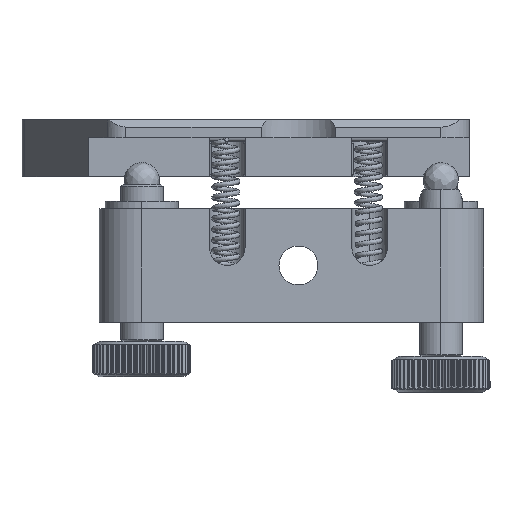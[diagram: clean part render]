
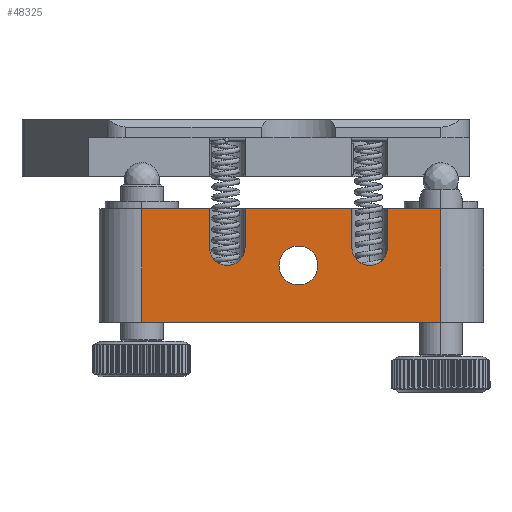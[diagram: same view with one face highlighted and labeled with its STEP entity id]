
A CAD part, left-side view. The second image highlights one B-rep face of the part: STEP entity #48325.
In plain terms, the highlighted planar face has unit normal (-1, 0, 0).
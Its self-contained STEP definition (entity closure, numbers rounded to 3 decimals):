
#283 = DIRECTION ( 'NONE',  ( 0., -1., 0. ) ) ;
#284 = VECTOR ( 'NONE', #283, 1000. ) ;
#285 = CARTESIAN_POINT ( 'NONE',  ( 0., 14.331, 16. ) ) ;
#286 = LINE ( 'NONE', #285, #284 ) ;
#393 = CARTESIAN_POINT ( 'NONE',  ( 0., 43.498, 16. ) ) ;
#3779 = CARTESIAN_POINT ( 'NONE',  ( 0., 28.998, 16. ) ) ;
#3820 = CARTESIAN_POINT ( 'NONE',  ( 0., 33.998, 16. ) ) ;
#3841 = CARTESIAN_POINT ( 'NONE',  ( 0., 8.998, 16. ) ) ;
#3842 = CARTESIAN_POINT ( 'NONE',  ( 0., 13.998, 16. ) ) ;
#3843 = CARTESIAN_POINT ( 'NONE',  ( 0., 1.498, 16. ) ) ;
#3872 = DIRECTION ( 'NONE',  ( 0., -1., 0. ) ) ;
#3873 = VECTOR ( 'NONE', #3872, 1000. ) ;
#3874 = CARTESIAN_POINT ( 'NONE',  ( 0., 14.331, 16. ) ) ;
#3875 = LINE ( 'NONE', #3874, #3873 ) ;
#3889 = DIRECTION ( 'NONE',  ( 0., -1., 0. ) ) ;
#3890 = VECTOR ( 'NONE', #3889, 1000. ) ;
#3891 = CARTESIAN_POINT ( 'NONE',  ( 0., 14.331, 16. ) ) ;
#3892 = LINE ( 'NONE', #3891, #3890 ) ;
#25013 = CARTESIAN_POINT ( 'NONE',  ( 0., 28.998, 10.5 ) ) ;
#25018 = DIRECTION ( 'NONE',  ( 0., 0., -1. ) ) ;
#25019 = DIRECTION ( 'NONE',  ( 1., 0., 0. ) ) ;
#25020 = CARTESIAN_POINT ( 'NONE',  ( 0., 31.498, 10.5 ) ) ;
#25021 = AXIS2_PLACEMENT_3D ( 'NONE', #25020, #25019, #25018 ) ;
#25022 = CIRCLE ( 'NONE', #25021, 2.5 ) ;
#25023 = DIRECTION ( 'NONE',  ( 0., 0., -1. ) ) ;
#25024 = VECTOR ( 'NONE', #25023, 1000. ) ;
#25025 = CARTESIAN_POINT ( 'NONE',  ( 0., 28.998, 0. ) ) ;
#25026 = LINE ( 'NONE', #25025, #25024 ) ;
#25074 = DIRECTION ( 'NONE',  ( 0., 0., 1. ) ) ;
#25075 = VECTOR ( 'NONE', #25074, 1000. ) ;
#25076 = CARTESIAN_POINT ( 'NONE',  ( 0., 33.998, 16. ) ) ;
#25090 = LINE ( 'NONE', #25076, #25075 ) ;
#25114 = CARTESIAN_POINT ( 'NONE',  ( 0., 8.998, 10.5 ) ) ;
#25121 = DIRECTION ( 'NONE',  ( 0., 0., -1. ) ) ;
#25122 = VECTOR ( 'NONE', #25121, 1000. ) ;
#25123 = CARTESIAN_POINT ( 'NONE',  ( 0., 43.498, 0. ) ) ;
#25124 = LINE ( 'NONE', #25123, #25122 ) ;
#25125 = DIRECTION ( 'NONE',  ( 0., 0., 1. ) ) ;
#25126 = VECTOR ( 'NONE', #25125, 1000. ) ;
#25127 = CARTESIAN_POINT ( 'NONE',  ( 0., 13.998, 0. ) ) ;
#25128 = LINE ( 'NONE', #25127, #25126 ) ;
#25133 = DIRECTION ( 'NONE',  ( 0., -1., 0. ) ) ;
#25134 = VECTOR ( 'NONE', #25133, 1000. ) ;
#25135 = CARTESIAN_POINT ( 'NONE',  ( 0., -4.502, 0. ) ) ;
#25136 = LINE ( 'NONE', #25135, #25134 ) ;
#25158 = DIRECTION ( 'NONE',  ( 0., 0., 1. ) ) ;
#25159 = DIRECTION ( 'NONE',  ( -1., 0., 0. ) ) ;
#25160 = CARTESIAN_POINT ( 'NONE',  ( 0., -4.502, 0. ) ) ;
#25161 = AXIS2_PLACEMENT_3D ( 'NONE', #25160, #25159, #25158 ) ;
#25162 = PLANE ( 'NONE',  #25161 ) ;
#25163 = FACE_OUTER_BOUND ( 'NONE', #48308, .T. ) ;
#25164 = FACE_BOUND ( 'NONE', #48316, .T. ) ;
#25165 = DIRECTION ( 'NONE',  ( 0., 0., 1. ) ) ;
#25166 = DIRECTION ( 'NONE',  ( 1., 0., 0. ) ) ;
#25167 = CARTESIAN_POINT ( 'NONE',  ( 0., 21.498, 8. ) ) ;
#25168 = AXIS2_PLACEMENT_3D ( 'NONE', #25167, #25166, #25165 ) ;
#25169 = CIRCLE ( 'NONE', #25168, 2.729 ) ;
#25171 = LINE ( 'NONE', #25241, #25240 ) ;
#25172 = DIRECTION ( 'NONE',  ( 0., 0., -1. ) ) ;
#25173 = VECTOR ( 'NONE', #25172, 1000. ) ;
#25174 = CARTESIAN_POINT ( 'NONE',  ( 0., 8.998, 0. ) ) ;
#25175 = LINE ( 'NONE', #25174, #25173 ) ;
#25176 = DIRECTION ( 'NONE',  ( 0., 0., -1. ) ) ;
#25177 = DIRECTION ( 'NONE',  ( 1., 0., 0. ) ) ;
#25178 = AXIS2_PLACEMENT_3D ( 'NONE', #25195, #25177, #25176 ) ;
#25193 = CIRCLE ( 'NONE', #25178, 2.5 ) ;
#25195 = CARTESIAN_POINT ( 'NONE',  ( 0., 11.498, 10.5 ) ) ;
#25196 = CARTESIAN_POINT ( 'NONE',  ( 0., 1.498, 0. ) ) ;
#25238 = CARTESIAN_POINT ( 'NONE',  ( 0., 43.498, 0. ) ) ;
#25239 = DIRECTION ( 'NONE',  ( 0., 0., 1. ) ) ;
#25240 = VECTOR ( 'NONE', #25239, 1000. ) ;
#25241 = CARTESIAN_POINT ( 'NONE',  ( 0., 1.498, 0. ) ) ;
#27392 = DIRECTION ( 'NONE',  ( 0., 0., -1. ) ) ;
#27393 = DIRECTION ( 'NONE',  ( 1., 0., 0. ) ) ;
#27394 = AXIS2_PLACEMENT_3D ( 'NONE', #27399, #27393, #27392 ) ;
#27399 = CARTESIAN_POINT ( 'NONE',  ( 0., 31.498, 10.5 ) ) ;
#27401 = CIRCLE ( 'NONE', #27394, 2.5 ) ;
#27597 = CARTESIAN_POINT ( 'NONE',  ( 0., 21.498, 10.729 ) ) ;
#27632 = CARTESIAN_POINT ( 'NONE',  ( 0., 21.498, 5.27 ) ) ;
#29697 = CARTESIAN_POINT ( 'NONE',  ( 0., 33.998, 10.5 ) ) ;
#29731 = DIRECTION ( 'NONE',  ( 0., 0., 1. ) ) ;
#29732 = DIRECTION ( 'NONE',  ( 1., 0., 0. ) ) ;
#29733 = CARTESIAN_POINT ( 'NONE',  ( 0., 21.498, 8. ) ) ;
#29734 = AXIS2_PLACEMENT_3D ( 'NONE', #29733, #29732, #29731 ) ;
#29735 = CIRCLE ( 'NONE', #29734, 2.729 ) ;
#29740 = CARTESIAN_POINT ( 'NONE',  ( 0., 31.498, 8. ) ) ;
#30196 = CARTESIAN_POINT ( 'NONE',  ( 0., 11.498, 8. ) ) ;
#30255 = CARTESIAN_POINT ( 'NONE',  ( 0., 13.998, 10.5 ) ) ;
#30256 = DIRECTION ( 'NONE',  ( 0., 0., -1. ) ) ;
#30257 = DIRECTION ( 'NONE',  ( 1., 0., 0. ) ) ;
#30258 = CARTESIAN_POINT ( 'NONE',  ( 0., 11.498, 10.5 ) ) ;
#30259 = AXIS2_PLACEMENT_3D ( 'NONE', #30258, #30257, #30256 ) ;
#30268 = CIRCLE ( 'NONE', #30259, 2.5 ) ;
#39356 = EDGE_CURVE ( 'NONE', #39430, #40635, #286, .T. ) ;
#39430 = VERTEX_POINT ( 'NONE', #393 ) ;
#40626 = VERTEX_POINT ( 'NONE', #3779 ) ;
#40635 = VERTEX_POINT ( 'NONE', #3820 ) ;
#40667 = VERTEX_POINT ( 'NONE', #3843 ) ;
#40668 = VERTEX_POINT ( 'NONE', #3842 ) ;
#40670 = VERTEX_POINT ( 'NONE', #3841 ) ;
#40680 = EDGE_CURVE ( 'NONE', #40670, #40667, #3892, .T. ) ;
#40689 = EDGE_CURVE ( 'NONE', #40626, #40668, #3875, .T. ) ;
#48241 = ORIENTED_EDGE ( 'NONE', *, *, #49437, .T. ) ;
#48244 = EDGE_CURVE ( 'NONE', #40626, #48251, #25026, .T. ) ;
#48247 = EDGE_CURVE ( 'NONE', #48251, #49434, #25022, .T. ) ;
#48248 = ORIENTED_EDGE ( 'NONE', *, *, #49369, .T. ) ;
#48251 = VERTEX_POINT ( 'NONE', #25013 ) ;
#48282 = EDGE_CURVE ( 'NONE', #49423, #40635, #25090, .T. ) ;
#48287 = ORIENTED_EDGE ( 'NONE', *, *, #39356, .F. ) ;
#48288 = EDGE_CURVE ( 'NONE', #48355, #48348, #25136, .T. ) ;
#48291 = ORIENTED_EDGE ( 'NONE', *, *, #40680, .F. ) ;
#48292 = ORIENTED_EDGE ( 'NONE', *, *, #48296, .T. ) ;
#48293 = ORIENTED_EDGE ( 'NONE', *, *, #48294, .T. ) ;
#48294 = EDGE_CURVE ( 'NONE', #49570, #40668, #25128, .T. ) ;
#48296 = EDGE_CURVE ( 'NONE', #39430, #48355, #25124, .T. ) ;
#48298 = ORIENTED_EDGE ( 'NONE', *, *, #48353, .T. ) ;
#48304 = VERTEX_POINT ( 'NONE', #25114 ) ;
#48308 = EDGE_LOOP ( 'NONE', ( #48309, #48310, #48248, #48320, #48287, #48292, #48351, #48349, #48291, #48298, #48362, #48356, #48293, #48369 ) ) ;
#48309 = ORIENTED_EDGE ( 'NONE', *, *, #48244, .T. ) ;
#48310 = ORIENTED_EDGE ( 'NONE', *, *, #48247, .T. ) ;
#48311 = ORIENTED_EDGE ( 'NONE', *, *, #48312, .T. ) ;
#48312 = EDGE_CURVE ( 'NONE', #49448, #49439, #25169, .T. ) ;
#48316 = EDGE_LOOP ( 'NONE', ( #48241, #48311 ) ) ;
#48320 = ORIENTED_EDGE ( 'NONE', *, *, #48282, .T. ) ;
#48325 = ADVANCED_FACE ( 'NONE', ( #25164, #25163 ), #25162, .T. ) ;
#48348 = VERTEX_POINT ( 'NONE', #25196 ) ;
#48349 = ORIENTED_EDGE ( 'NONE', *, *, #48354, .T. ) ;
#48351 = ORIENTED_EDGE ( 'NONE', *, *, #48288, .T. ) ;
#48352 = EDGE_CURVE ( 'NONE', #48304, #49545, #25193, .T. ) ;
#48353 = EDGE_CURVE ( 'NONE', #40670, #48304, #25175, .T. ) ;
#48354 = EDGE_CURVE ( 'NONE', #48348, #40667, #25171, .T. ) ;
#48355 = VERTEX_POINT ( 'NONE', #25238 ) ;
#48356 = ORIENTED_EDGE ( 'NONE', *, *, #49569, .T. ) ;
#48362 = ORIENTED_EDGE ( 'NONE', *, *, #48352, .T. ) ;
#48369 = ORIENTED_EDGE ( 'NONE', *, *, #40689, .F. ) ;
#49369 = EDGE_CURVE ( 'NONE', #49434, #49423, #27401, .T. ) ;
#49423 = VERTEX_POINT ( 'NONE', #29697 ) ;
#49434 = VERTEX_POINT ( 'NONE', #29740 ) ;
#49437 = EDGE_CURVE ( 'NONE', #49439, #49448, #29735, .T. ) ;
#49439 = VERTEX_POINT ( 'NONE', #27597 ) ;
#49448 = VERTEX_POINT ( 'NONE', #27632 ) ;
#49545 = VERTEX_POINT ( 'NONE', #30196 ) ;
#49569 = EDGE_CURVE ( 'NONE', #49545, #49570, #30268, .T. ) ;
#49570 = VERTEX_POINT ( 'NONE', #30255 ) ;
